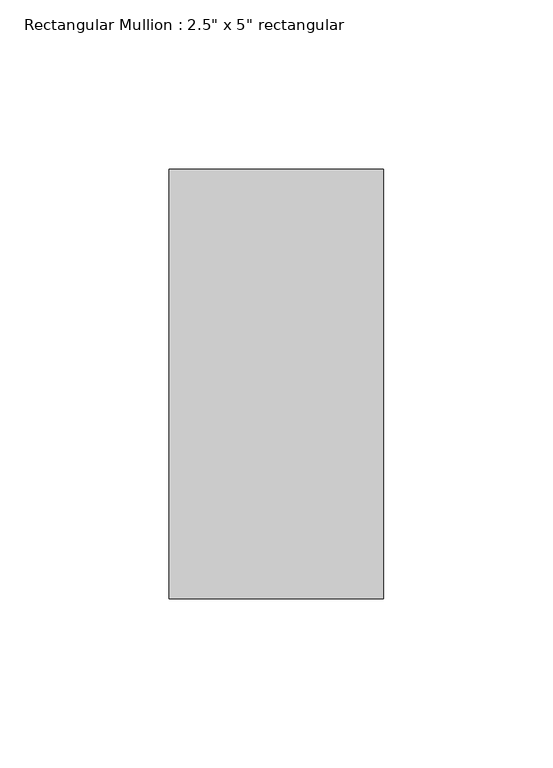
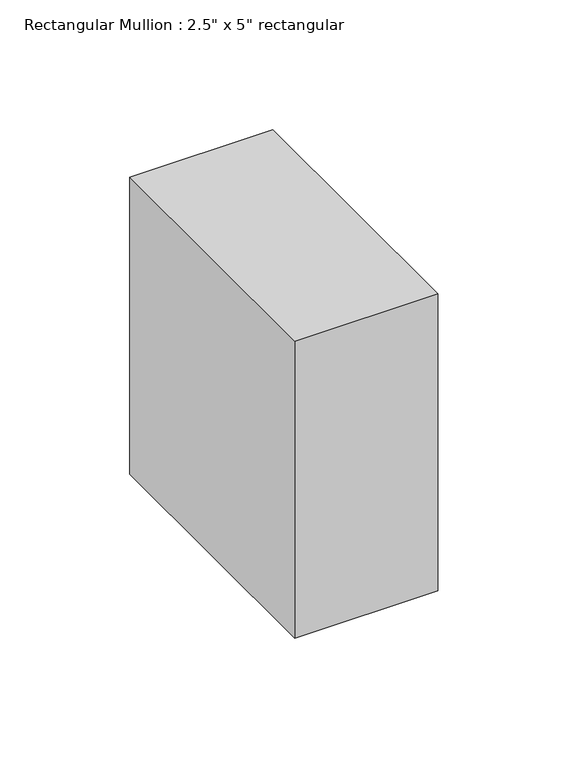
"""IFC4 building model written with IfcOpenShell, lengths in millimetres: member geometry."""

from ifc_helpers import new_model, si_unit, frame, origin, place, context, project, spatial, polyline, outline, extrude, source, transform, mapped, element, save


def member_1d39c7df(model_context):
    return source(origin(), model_context, "Body", "SweptSolid", [
        extrude(outline(polyline([(31.75, 63.5), (31.75, -63.5), (-31.75, -63.5), (-31.75, 63.5), (31.75, 63.5)])), frame((0.0, 0.0, -139.413672), z_axis=(0.0, 0.0, 1.0), x_axis=(1.0, 0.0, 0.0)), (0.0, 0.0, 1.0), 139.413672),
    ])


if __name__ == "__main__":
    model = new_model("IFC4")
    model_context = context("Model", 3, world=origin())
    ifc_project = project(units=[si_unit("LENGTHUNIT", "METRE", prefix="MILLI")], contexts=[model_context])
    site = spatial("IfcSite", under=ifc_project)
    building = spatial("IfcBuilding", under=site)
    placement = place(None, origin())
    member_shape = member_1d39c7df(model_context)
    element("IfcMember", 1, ObjectType="Rectangular Mullion : 2.5\" x 5\" rectangular", at=placement, inside=building, context=model_context, shape_type="MappedRepresentation", body=[
        mapped(member_shape, transform((0.0, 0.0, 0.0), x_axis=(1.0, 0.0, 0.0), y_axis=(0.0, 1.0, 0.0), z_axis=(0.0, 0.0, 1.0))),
    ])
    save(model, "model.ifc")
